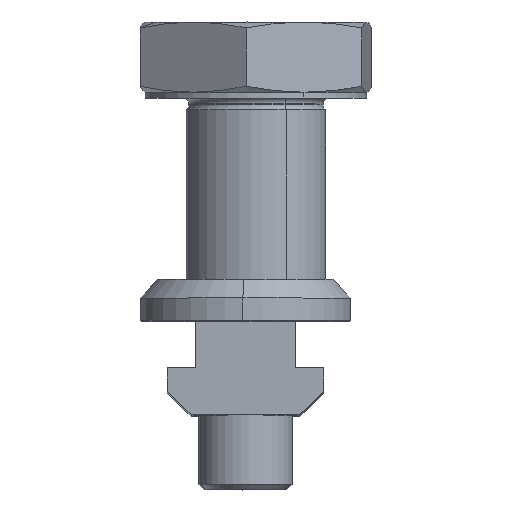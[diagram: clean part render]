
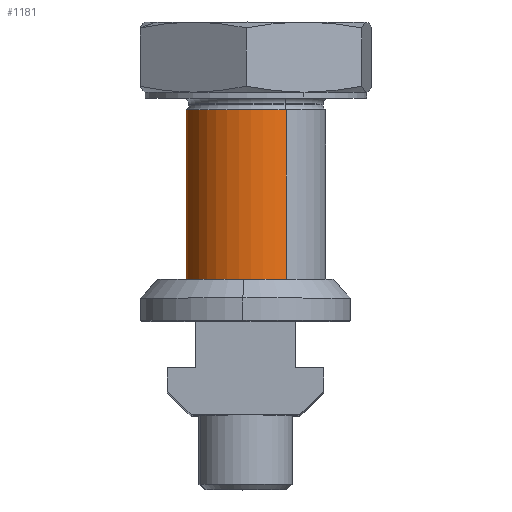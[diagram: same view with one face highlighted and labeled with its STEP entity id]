
A CAD part, top view. The second image highlights one B-rep face of the part: STEP entity #1181.
In plain terms, the highlighted cylindrical face has radius 6 mm (diameter 12 mm), a partial arc.
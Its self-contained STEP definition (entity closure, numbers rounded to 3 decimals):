
#49 = LINE ( 'NONE', #3648, #691 ) ;
#157 = DIRECTION ( 'NONE',  ( 0., -1., 0. ) ) ;
#691 = VECTOR ( 'NONE', #5359, 1000. ) ;
#699 = EDGE_LOOP ( 'NONE', ( #4508, #2389, #3813, #4252 ) ) ;
#701 = CIRCLE ( 'NONE', #3087, 6. ) ;
#747 = CARTESIAN_POINT ( 'NONE',  ( 3.492, 3.6, 26.98 ) ) ;
#918 = CARTESIAN_POINT ( 'NONE',  ( -1.688, 3.6, 16.156 ) ) ;
#963 = CARTESIAN_POINT ( 'NONE',  ( -1.688, 18.1, 16.156 ) ) ;
#1006 = EDGE_CURVE ( 'NONE', #3467, #2718, #1840, .T. ) ;
#1012 = VERTEX_POINT ( 'NONE', #5184 ) ;
#1181 = ADVANCED_FACE ( 'NONE', ( #1617 ), #3575, .T. ) ;
#1278 = CARTESIAN_POINT ( 'NONE',  ( 0.902, 3.6, 21.568 ) ) ;
#1306 = DIRECTION ( 'NONE',  ( 0., -1., 0. ) ) ;
#1371 = DIRECTION ( 'NONE',  ( -0.432, 0., -0.902 ) ) ;
#1576 = AXIS2_PLACEMENT_3D ( 'NONE', #1862, #157, #1371 ) ;
#1617 = FACE_OUTER_BOUND ( 'NONE', #699, .T. ) ;
#1667 = LINE ( 'NONE', #918, #4525 ) ;
#1788 = EDGE_CURVE ( 'NONE', #1012, #3467, #49, .T. ) ;
#1840 = CIRCLE ( 'NONE', #1576, 6. ) ;
#1862 = CARTESIAN_POINT ( 'NONE',  ( 0.902, 3.6, 21.568 ) ) ;
#2389 = ORIENTED_EDGE ( 'NONE', *, *, #3586, .T. ) ;
#2718 = VERTEX_POINT ( 'NONE', #4127 ) ;
#2882 = DIRECTION ( 'NONE',  ( -0.432, 0., -0.902 ) ) ;
#2909 = DIRECTION ( 'NONE',  ( 0., -1., 0. ) ) ;
#3087 = AXIS2_PLACEMENT_3D ( 'NONE', #4188, #1306, #2882 ) ;
#3467 = VERTEX_POINT ( 'NONE', #747 ) ;
#3575 = CYLINDRICAL_SURFACE ( 'NONE', #4506, 6. ) ;
#3586 = EDGE_CURVE ( 'NONE', #1012, #3647, #701, .T. ) ;
#3647 = VERTEX_POINT ( 'NONE', #963 ) ;
#3648 = CARTESIAN_POINT ( 'NONE',  ( 3.492, 3.6, 26.98 ) ) ;
#3813 = ORIENTED_EDGE ( 'NONE', *, *, #4151, .T. ) ;
#4127 = CARTESIAN_POINT ( 'NONE',  ( -1.688, 3.6, 16.156 ) ) ;
#4151 = EDGE_CURVE ( 'NONE', #3647, #2718, #1667, .T. ) ;
#4188 = CARTESIAN_POINT ( 'NONE',  ( 0.902, 18.1, 21.568 ) ) ;
#4252 = ORIENTED_EDGE ( 'NONE', *, *, #1006, .F. ) ;
#4506 = AXIS2_PLACEMENT_3D ( 'NONE', #1278, #2909, #4604 ) ;
#4508 = ORIENTED_EDGE ( 'NONE', *, *, #1788, .F. ) ;
#4525 = VECTOR ( 'NONE', #5079, 1000. ) ;
#4604 = DIRECTION ( 'NONE',  ( -0.432, 0., -0.902 ) ) ;
#5079 = DIRECTION ( 'NONE',  ( 0., -1., 0. ) ) ;
#5184 = CARTESIAN_POINT ( 'NONE',  ( 3.492, 18.1, 26.98 ) ) ;
#5359 = DIRECTION ( 'NONE',  ( 0., -1., 0. ) ) ;
